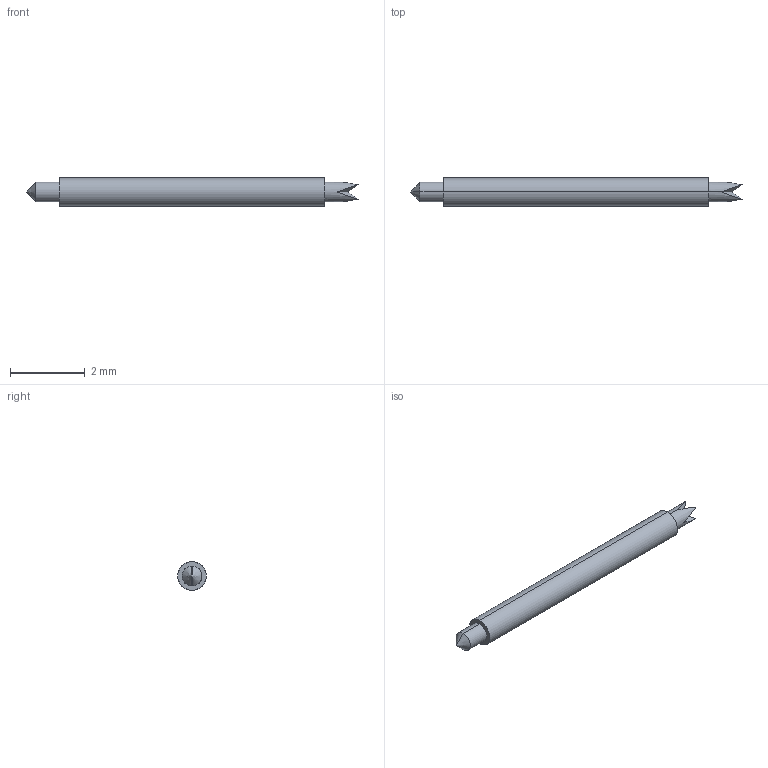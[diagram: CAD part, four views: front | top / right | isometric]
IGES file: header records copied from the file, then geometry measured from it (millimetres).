
Start section: SolidWorks IGES file using analytic representation for surfaces
Global section: file name: Z:\probe solid model mockups\Solidworks models\IGES Files\CSP1-1.27 IGES files\CSP1-1.27LB.IGS; native system: SolidWorks 2006 by SolidWorks Corporation; preprocessor: SolidWorks 2006 by SolidWorks Corporation; author: tsakatani; date: 080108.155426; units: inch
Bounding box: 8.89 x 0.76 x 0.76 mm (x, y, z)
Surface area: 20.5 mm2 (no closed solid volume)
Topology: 0 solids, 0 shells, 18 faces, 142 edges, 140 vertices
Faces by surface type: bspline 10, revolution 8
